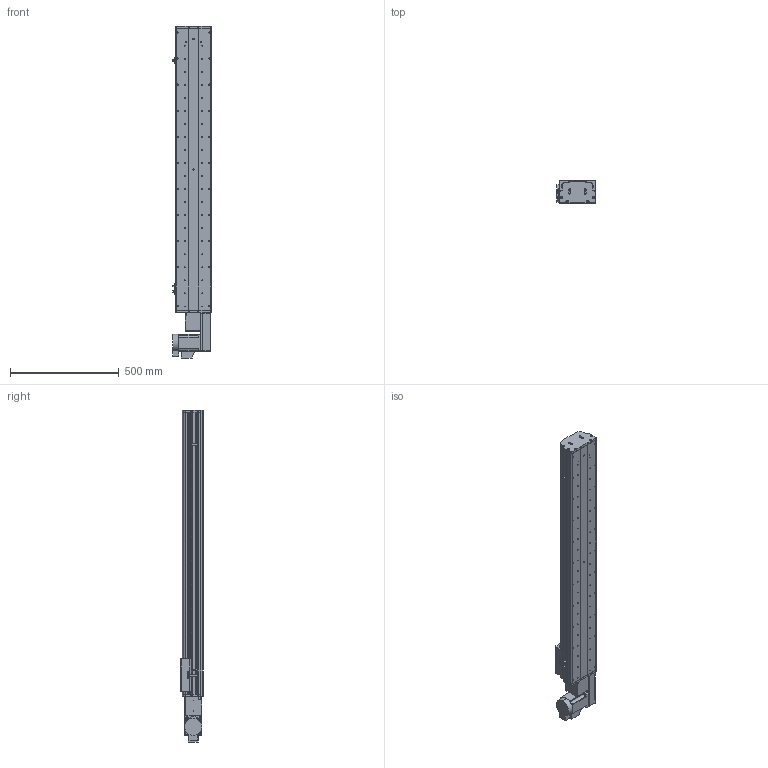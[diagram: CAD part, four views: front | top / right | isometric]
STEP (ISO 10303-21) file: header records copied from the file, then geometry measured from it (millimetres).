
FILE_DESCRIPTION (( 'STEP AP214' ), '1' );
FILE_NAME ('KSD165B-S1050-MRB-CM.STEP', '2017-10-16T08:58:17', ( '微软用户' ), ( '微软中国' ), 'SwSTEP 2.0', 'SolidWorks 2014', '' );
FILE_SCHEMA (( 'AUTOMOTIVE_DESIGN' ));
Length unit declared in the file: millimetre
Products named in the file (17): U倰嫖萇EEㄜSX672; 覜茼え68遵圉猾敕; KSD165模组-同步带-防撞垫2; KSD165模组同步带-防撞垫1; KSD165耀郪-ヶ傷啣1-肮祭湍; KSD165模组-后端板1-同步带; KSD165模组-同步带滑动座-最新版; KSD165B-S1050-MRB-CM; HTPA26S5M250-A-H8 750W萇儂蚚; HTPA26S5M250-A-H8 400W萇儂蚚 ; 130宽模组马达安装板连板左右折同步带; 130宽模组保护罩上下左右折-同步带; KSD165模组-同步带防尘盖1-1050行程; KSD165模组同步带底板-1050行程; 拸秶雄ん750W侜督萇儂; 165宽马达安装板同步带右; U倰嫖萇假蚾璃
Assembly tree (20 placements, depth 2):
  KSD165B-S1050-MRB-CM
    KSD165模组-同步带滑动座-最新版
    KSD165模组-后端板1-同步带
    KSD165耀郪-ヶ傷啣1-肮祭湍
    KSD165模组同步带-防撞垫1
    KSD165模组-同步带-防撞垫2
    覜茼え68遵圉猾敕
    U倰嫖萇EEㄜSX672  x3
    U倰嫖萇假蚾璃  x3
    165宽马达安装板同步带右
    拸秶雄ん750W侜督萇儂
    KSD165模组同步带底板-1050行程
    KSD165模组-同步带防尘盖1-1050行程
    130宽模组保护罩上下左右折-同步带
    130宽模组马达安装板连板左右折同步带
    HTPA26S5M250-A-H8 400W萇儂蚚 
    HTPA26S5M250-A-H8 750W萇儂蚚
Bounding box: 178.7 x 104 x 1527.5 mm (x, y, z)
Volume: 8144334.7 mm3; surface area: 1892940.6 mm2
Topology: 21 solids, 21 shells, 1979 faces, 5592 edges, 3652 vertices
Faces by surface type: cylinder 1279, plane 588, cone 112
Entity records: 64484 total; most frequent: CARTESIAN_POINT 13204, DIRECTION 10580, ORIENTED_EDGE 9844, EDGE_CURVE 4922, AXIS2_PLACEMENT_3D 4154, VERTEX_POINT 3244, CIRCLE 2372, VECTOR 2272
